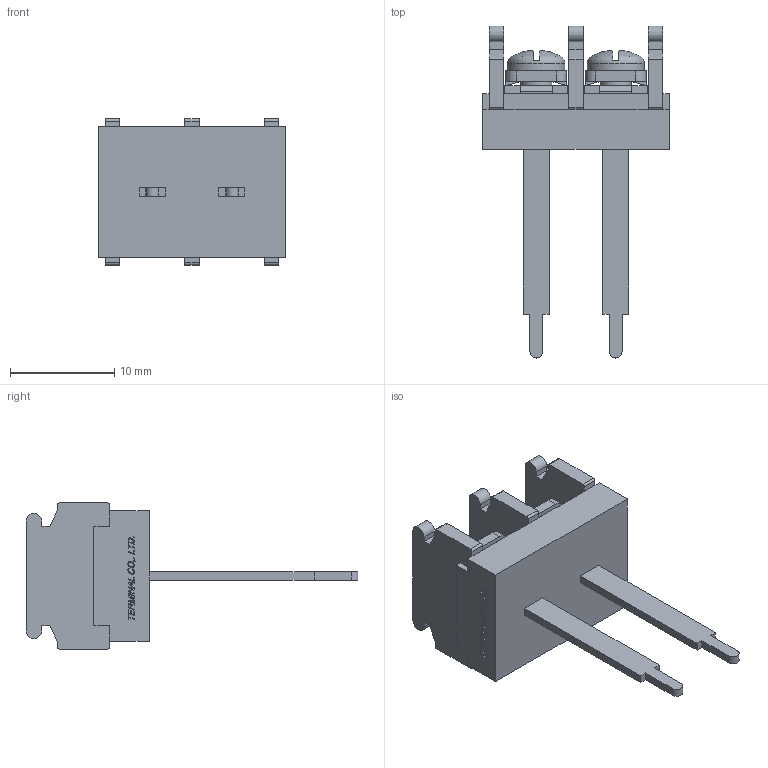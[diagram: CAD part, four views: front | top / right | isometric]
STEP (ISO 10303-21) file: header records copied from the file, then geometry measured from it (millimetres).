
FILE_DESCRIPTION(/* description */ ('Alibre Inc.'),/* implementation_level */ '2;1');
FILE_NAME(/* name */ 'export0',/* time_stamp */ '2015-10-26T16:03:15+09:00',/* author */ (''),/* organization */ (''),/* preprocessor_version */ 'ST-DEVELOPER v14',/* originating_system */ 'Alibre',/* authorisation */ '');
FILE_SCHEMA (('CONFIG_CONTROL_DESIGN'));
Length unit declared in the file: centimetre
Products named in the file (1): ID_1
Bounding box: 17.86 x 31.8 x 14 mm (x, y, z)
Volume: 1783.4 mm3; surface area: 1982.7 mm2
Topology: 1 solids, 1 shells, 634 faces, 1720 edges, 1136 vertices
Faces by surface type: plane 478, bspline 104, cylinder 36, cone 8, torus 4, sphere 4
Full cylindrical faces by diameter (mm): 3 x2, 5.5 x2
Entity records: 19189 total; most frequent: CARTESIAN_POINT 4477, ORIENTED_EDGE 3416, DIRECTION 2132, EDGE_CURVE 1708, VECTOR 1304, LINE 1304, VERTEX_POINT 1132, EDGE_LOOP 690
